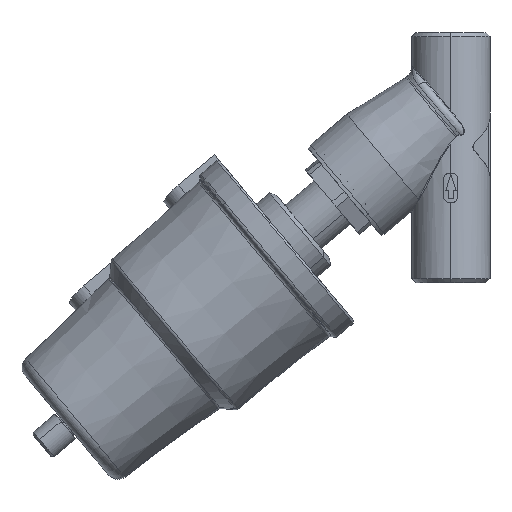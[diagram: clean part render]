
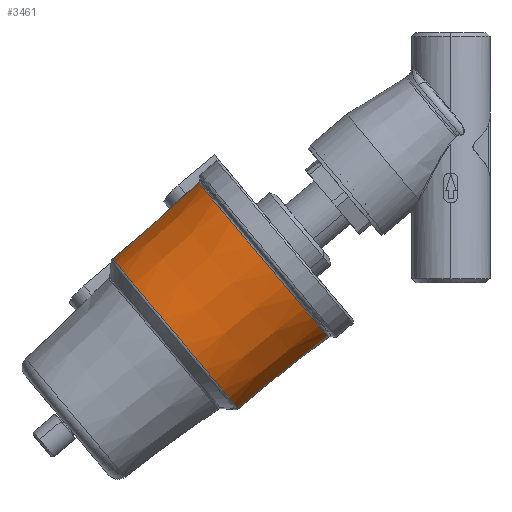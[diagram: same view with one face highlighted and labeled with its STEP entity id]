
A CAD part, left-side view. The second image highlights one B-rep face of the part: STEP entity #3461.
In plain terms, the highlighted conical face has half-angle 1.548 degrees and reference radius 48.921 mm.
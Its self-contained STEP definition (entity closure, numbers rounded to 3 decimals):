
#514 = CONICAL_SURFACE ( 'NONE', #33510, 48.921, 0.027 ) ;
#546 = CARTESIAN_POINT ( 'NONE',  ( 512.979, 507.47, -48.921 ) ) ;
#1028 = EDGE_CURVE ( 'NONE', #7364, #12875, #33818, .T. ) ;
#1123 = DIRECTION ( 'NONE',  ( 0., 1., 0. ) ) ;
#2362 = CARTESIAN_POINT ( 'NONE',  ( 512.979, 507.47, -48.921 ) ) ;
#2711 = CARTESIAN_POINT ( 'NONE',  ( 501.979, 455.968, 49.096 ) ) ;
#2825 = CARTESIAN_POINT ( 'NONE',  ( 502.05, 460.002, 49.001 ) ) ;
#2956 = CARTESIAN_POINT ( 'NONE',  ( 507.168, 467.905, 49.653 ) ) ;
#3461 = ADVANCED_FACE ( 'NONE', ( #19543 ), #514, .T. ) ;
#5140 = VERTEX_POINT ( 'NONE', #40396 ) ;
#5672 = ORIENTED_EDGE ( 'NONE', *, *, #1028, .F. ) ;
#6082 = CARTESIAN_POINT ( 'NONE',  ( 501.979, 458.558, 49.024 ) ) ;
#6199 = CARTESIAN_POINT ( 'NONE',  ( 502.348, 461.408, 49.027 ) ) ;
#6348 = CARTESIAN_POINT ( 'NONE',  ( 508.112, 468.429, 49.74 ) ) ;
#6998 = CARTESIAN_POINT ( 'NONE',  ( 512.979, 507.47, 0. ) ) ;
#7364 = VERTEX_POINT ( 'NONE', #24462 ) ;
#7932 = EDGE_CURVE ( 'NONE', #26000, #5140, #11729, .T. ) ;
#8246 = CARTESIAN_POINT ( 'NONE',  ( 512.979, 507.47, 48.921 ) ) ;
#9640 = CARTESIAN_POINT ( 'NONE',  ( 502.682, 462.445, 49.07 ) ) ;
#9773 = CARTESIAN_POINT ( 'NONE',  ( 509.098, 468.857, 49.815 ) ) ;
#10113 = CARTESIAN_POINT ( 'NONE',  ( 501.979, 458.558, 49.024 ) ) ;
#10426 = DIRECTION ( 'NONE',  ( 0., 0., 1. ) ) ;
#10633 = VECTOR ( 'NONE', #29388, 1000. ) ;
#11729 = LINE ( 'NONE', #2362, #10633 ) ;
#12219 = AXIS2_PLACEMENT_3D ( 'NONE', #21352, #1123, #24736 ) ;
#12875 = VERTEX_POINT ( 'NONE', #15402 ) ;
#13016 = CARTESIAN_POINT ( 'NONE',  ( 503.436, 464.075, 49.178 ) ) ;
#13155 = CARTESIAN_POINT ( 'NONE',  ( 510.126, 469.188, 49.876 ) ) ;
#13744 = EDGE_CURVE ( 'NONE', #22555, #43102, #24574, .T. ) ;
#14281 = DIRECTION ( 'NONE',  ( 0., 0., -1. ) ) ;
#15402 = CARTESIAN_POINT ( 'NONE',  ( 512.979, 469.558, 49.946 ) ) ;
#16426 = CARTESIAN_POINT ( 'NONE',  ( 504.252, 465.264, 49.296 ) ) ;
#16566 = CARTESIAN_POINT ( 'NONE',  ( 511.545, 469.488, 49.932 ) ) ;
#17668 = DIRECTION ( 'NONE',  ( 0., -1., 0. ) ) ;
#19543 = FACE_OUTER_BOUND ( 'NONE', #37984, .T. ) ;
#19553 = CARTESIAN_POINT ( 'NONE',  ( 501.979, 450.154, 49.257 ) ) ;
#19810 = CARTESIAN_POINT ( 'NONE',  ( 504.952, 466.088, 49.392 ) ) ;
#19949 = CARTESIAN_POINT ( 'NONE',  ( 512.979, 469.558, 49.946 ) ) ;
#20866 = B_SPLINE_CURVE_WITH_KNOTS ( 'NONE', 3,
 ( #28987, #39864, #2825, #26455, #6199, #29835, #9640, #33219, #13016, #36611, #16426, #40004, #19810, #43437, #23192, #2956, #26586, #6348, #29980, #9773, #33365, #13155, #36752, #16566, #40156, #19949 ),
 .UNSPECIFIED., .F., .F.,
 ( 4, 2, 2, 2, 2, 2, 2, 2, 2, 2, 2, 2, 4 ),
 ( 0., 0.002, 0.003, 0.004, 0.006, 0.008, 0.009, 0.011, 0.012, 0.013, 0.014, 0.015, 0.017 ),
 .UNSPECIFIED. ) ;
#21352 = CARTESIAN_POINT ( 'NONE',  ( 512.979, 450.154, 0. ) ) ;
#22555 = VERTEX_POINT ( 'NONE', #43696 ) ;
#22932 = CARTESIAN_POINT ( 'NONE',  ( 501.979, 454.673, 49.132 ) ) ;
#23192 = CARTESIAN_POINT ( 'NONE',  ( 506.265, 467.301, 49.558 ) ) ;
#24312 = CARTESIAN_POINT ( 'NONE',  ( 512.979, 507.47, 0. ) ) ;
#24462 = CARTESIAN_POINT ( 'NONE',  ( 512.979, 507.47, 48.921 ) ) ;
#24574 = B_SPLINE_CURVE_WITH_KNOTS ( 'NONE', 3,
 ( #19553, #39753, #43177, #22932, #2711, #26334, #6082 ),
 .UNSPECIFIED., .F., .F.,
 ( 4, 3, 4 ),
 ( 0.094, 0.098, 0.102 ),
 .UNSPECIFIED. ) ;
#24736 = DIRECTION ( 'NONE',  ( 0., 0., 1. ) ) ;
#24949 = DIRECTION ( 'NONE',  ( 0., -1., 0.027 ) ) ;
#26000 = VERTEX_POINT ( 'NONE', #546 ) ;
#26334 = CARTESIAN_POINT ( 'NONE',  ( 501.979, 457.263, 49.06 ) ) ;
#26455 = CARTESIAN_POINT ( 'NONE',  ( 502.261, 461.059, 49.018 ) ) ;
#26586 = CARTESIAN_POINT ( 'NONE',  ( 507.479, 468.091, 49.683 ) ) ;
#28520 = EDGE_CURVE ( 'NONE', #43102, #12875, #20866, .T. ) ;
#28987 = CARTESIAN_POINT ( 'NONE',  ( 501.979, 458.558, 49.024 ) ) ;
#29388 = DIRECTION ( 'NONE',  ( 0., -1., -0.027 ) ) ;
#29489 = CIRCLE ( 'NONE', #40359, 48.921 ) ;
#29835 = CARTESIAN_POINT ( 'NONE',  ( 502.559, 462.101, 49.053 ) ) ;
#29848 = ORIENTED_EDGE ( 'NONE', *, *, #36057, .F. ) ;
#29980 = CARTESIAN_POINT ( 'NONE',  ( 508.436, 468.582, 49.767 ) ) ;
#30639 = DIRECTION ( 'NONE',  ( 0., 1., 0. ) ) ;
#33219 = CARTESIAN_POINT ( 'NONE',  ( 503.097, 463.444, 49.128 ) ) ;
#33365 = CARTESIAN_POINT ( 'NONE',  ( 509.436, 468.978, 49.837 ) ) ;
#33479 = CIRCLE ( 'NONE', #12219, 50.47 ) ;
#33510 = AXIS2_PLACEMENT_3D ( 'NONE', #24312, #17668, #14281 ) ;
#33818 = LINE ( 'NONE', #8246, #41791 ) ;
#34454 = ORIENTED_EDGE ( 'NONE', *, *, #7932, .T. ) ;
#36057 = EDGE_CURVE ( 'NONE', #26000, #7364, #29489, .T. ) ;
#36611 = CARTESIAN_POINT ( 'NONE',  ( 504.035, 464.972, 49.265 ) ) ;
#36752 = CARTESIAN_POINT ( 'NONE',  ( 510.48, 469.276, 49.892 ) ) ;
#37984 = EDGE_LOOP ( 'NONE', ( #5672, #29848, #34454, #40105, #40437, #39466 ) ) ;
#39466 = ORIENTED_EDGE ( 'NONE', *, *, #28520, .T. ) ;
#39753 = CARTESIAN_POINT ( 'NONE',  ( 501.979, 451.661, 49.215 ) ) ;
#39864 = CARTESIAN_POINT ( 'NONE',  ( 501.979, 459.286, 49.004 ) ) ;
#40004 = CARTESIAN_POINT ( 'NONE',  ( 504.711, 465.822, 49.36 ) ) ;
#40105 = ORIENTED_EDGE ( 'NONE', *, *, #43614, .T. ) ;
#40156 = CARTESIAN_POINT ( 'NONE',  ( 512.259, 469.558, 49.946 ) ) ;
#40359 = AXIS2_PLACEMENT_3D ( 'NONE', #6998, #30639, #10426 ) ;
#40396 = CARTESIAN_POINT ( 'NONE',  ( 512.979, 450.154, -50.47 ) ) ;
#40437 = ORIENTED_EDGE ( 'NONE', *, *, #13744, .T. ) ;
#41791 = VECTOR ( 'NONE', #24949, 1000. ) ;
#43102 = VERTEX_POINT ( 'NONE', #10113 ) ;
#43177 = CARTESIAN_POINT ( 'NONE',  ( 501.979, 453.167, 49.174 ) ) ;
#43437 = CARTESIAN_POINT ( 'NONE',  ( 505.712, 466.847, 49.491 ) ) ;
#43614 = EDGE_CURVE ( 'NONE', #5140, #22555, #33479, .T. ) ;
#43696 = CARTESIAN_POINT ( 'NONE',  ( 501.979, 450.154, 49.257 ) ) ;
